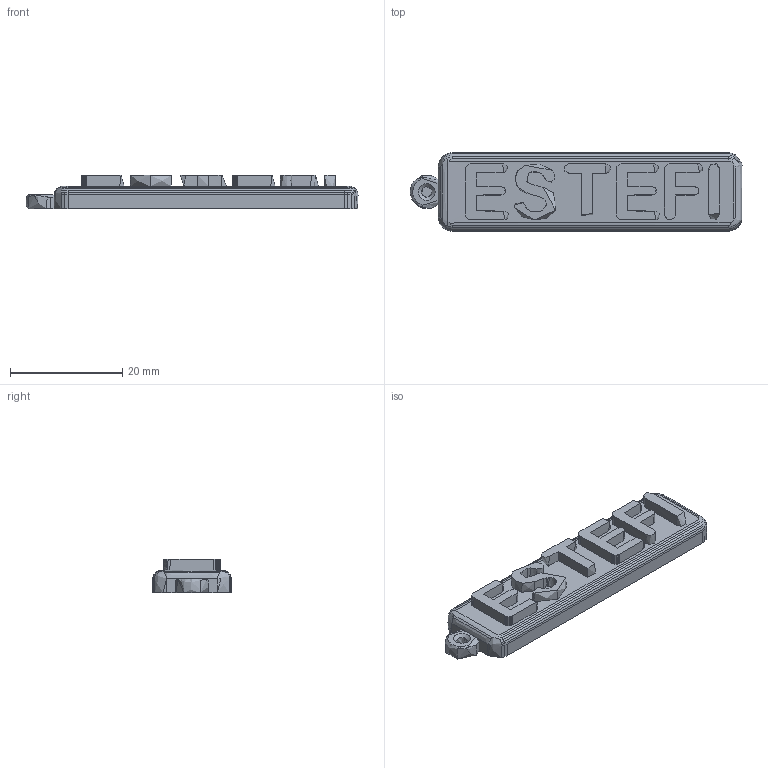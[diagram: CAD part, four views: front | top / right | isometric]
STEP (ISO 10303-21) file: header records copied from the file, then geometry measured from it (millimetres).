
FILE_DESCRIPTION(('Open CASCADE Model'),'2;1');
FILE_NAME('Open CASCADE Shape Model','2026-10-26T18:33:11',('Author'),( 'Open CASCADE'),'Open CASCADE STEP processor 7.9','Open CASCADE 7.9' ,'Unknown');
FILE_SCHEMA(('AUTOMOTIVE_DESIGN { 1 0 10303 214 1 1 1 1 }'));
Length unit declared in the file: millimetre
Products named in the file (1): Open CASCADE STEP translator 7.9 2
Bounding box: 59.18 x 14 x 6 mm (x, y, z)
Volume: 3421.6 mm3; surface area: 2536.3 mm2
Topology: 1 solids, 1 shells, 228 faces, 592 edges, 371 vertices
Faces by surface type: plane 171, bspline 32, cylinder 22, torus 3
Entity records: 22585 total; most frequent: CARTESIAN_POINT 12093, DIRECTION 1493, ORIENTED_EDGE 1180, PCURVE 1180, DEFINITIONAL_REPRESENTATION 1180, LINE 948, VECTOR 948, B_SPLINE_CURVE_WITH_KNOTS 709
